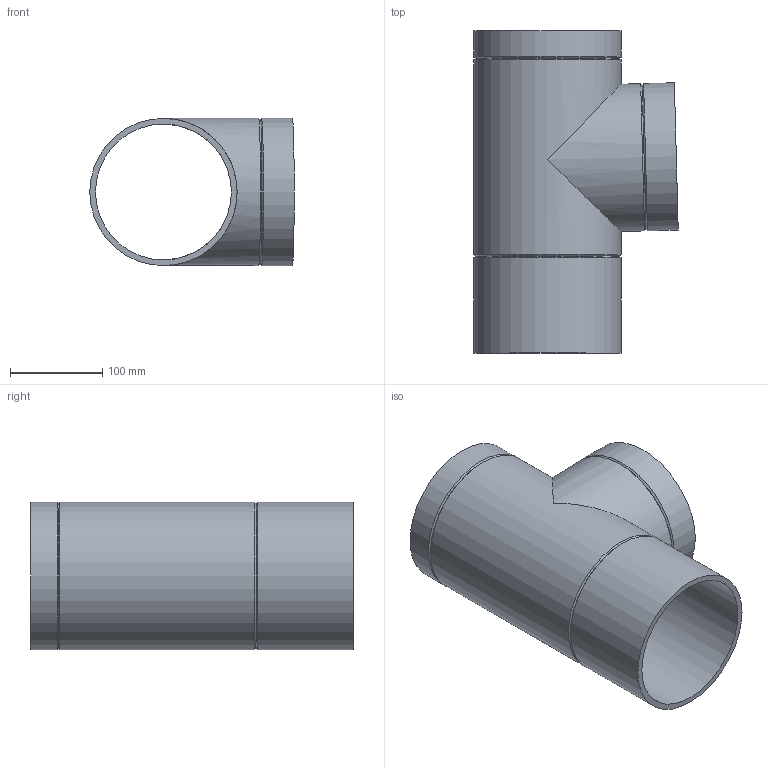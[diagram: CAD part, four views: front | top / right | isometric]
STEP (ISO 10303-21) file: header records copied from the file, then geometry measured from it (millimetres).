
FILE_DESCRIPTION(/* description */ (''),/* implementation_level */ '2;1');
FILE_NAME(/* name */ 'Z:\Geberit\Export\NewStep\369195.stp',/* time_stamp */ '2014-04-02T08:02:16+02:00',/* author */ ('nelson'),/* organization */ (''),/* preprocessor_version */ 'ST-DEVELOPER v15.2',/* originating_system */ 'Autodesk Inventor 2014',/* authorisation */ '');
FILE_SCHEMA (('AUTOMOTIVE_DESIGN { 1 0 10303 214 3 1 1 }'));
Length unit declared in the file: millimetre
Products named in the file (1): 369195
Bounding box: 222.05 x 350 x 160 mm (x, y, z)
Volume: 1170481.9 mm3; surface area: 389627.1 mm2
Topology: 1 solids, 1 shells, 16 faces, 39 edges, 25 vertices
Faces by surface type: cylinder 7, cone 6, plane 3
Full cylindrical faces by diameter (mm): 147.6 x2, 160 x5
Entity records: 399 total; most frequent: DIRECTION 72, CARTESIAN_POINT 55, ORIENTED_EDGE 38, AXIS2_PLACEMENT_3D 36, EDGE_LOOP 34, FACE_BOUND 22, VERTEX_POINT 19, EDGE_CURVE 19
